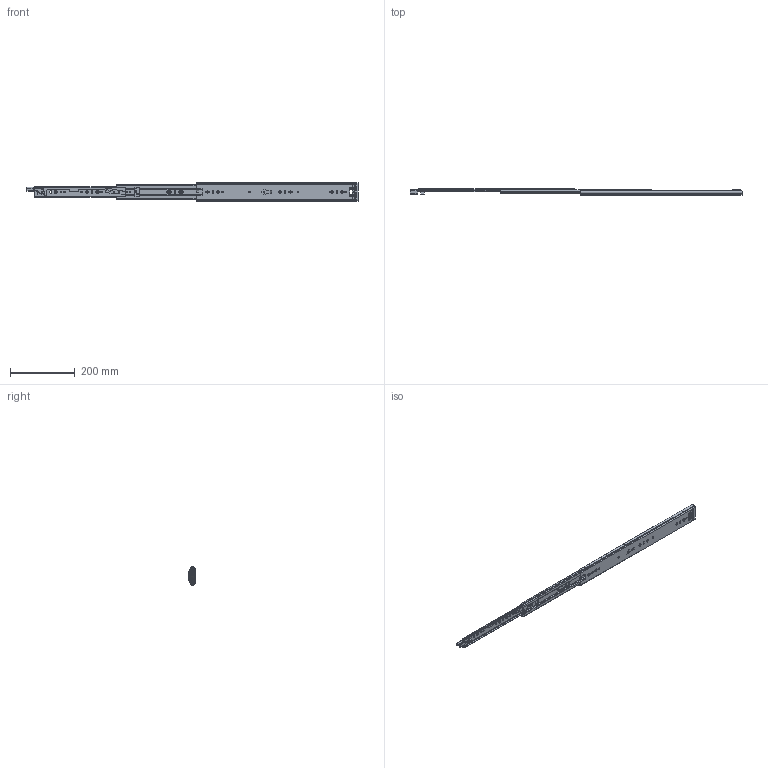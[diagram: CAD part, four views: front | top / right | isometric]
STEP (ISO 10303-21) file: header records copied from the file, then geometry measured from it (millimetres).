
FILE_DESCRIPTION((''),'2;1');
FILE_NAME('KP-57-01ZUZHUANGTU-20YOU_ASM','2023-04-03T',('jishu015'),(''),'PRO/ENGINEER BY PARAMETRIC TECHNOLOGY CORPORATION, 2010280','PRO/ENGINEER BY PARAMETRIC TECHNOLOGY CORPORATION, 2010280','');
FILE_SCHEMA(('CONFIG_CONTROL_DESIGN'));
Length unit declared in the file: millimetre
Products named in the file (21): KP-57-01WEIKE-20_; 1057WEIJIAO_________________; WAIKE________________ASM; KP-57-01ZHONGGUI-26____; ZHONGGUIPEIJIAN-20_; ZHONGGUISUOKOU-122; KP-57-01ZHONGGUI-26_____ASM; 1057XIAOZHUJIA_________________; 1057-5-6GANZHU_________________; 1057XIAOZHUJIA-14GE26_____ASM; KP-57-01NEIGUI-22__; PJ-57-08_______________; DIAOPIAN-11_______________; 50XINSUOKOU-1_______________; 1053-3SBANJI122_____________; JIAO11_____________; KP-57-01NEIGUI-22___ASM; 1053ZHUTIAO-275____; 53-5-6GANZHU1_; 1053ZHUTIAO-175MM11_ASM; KP-57-01ZUZHUANGTU-20YOU_ASM
Assembly tree (59 placements, depth 3):
  KP-57-01ZUZHUANGTU-20YOU_ASM
    WAIKE________________ASM
      KP-57-01WEIKE-20_
      1057WEIJIAO_________________
    KP-57-01ZHONGGUI-26_____ASM
      KP-57-01ZHONGGUI-26____
      ZHONGGUIPEIJIAN-20_
      ZHONGGUISUOKOU-122
    1057XIAOZHUJIA-14GE26_____ASM
      1057XIAOZHUJIA_________________
      1057-5-6GANZHU_________________  x32
    KP-57-01NEIGUI-22___ASM
      KP-57-01NEIGUI-22__
      PJ-57-08_______________
      DIAOPIAN-11_______________
      50XINSUOKOU-1_______________
      1053-3SBANJI122_____________
      JIAO11_____________
    1053ZHUTIAO-175MM11_ASM  x2
      1053ZHUTIAO-275____
      53-5-6GANZHU1_
Bounding box: 1026.92 x 19 x 57.67 mm (x, y, z)
Volume: 218090.7 mm3; surface area: 236459.1 mm2
Topology: 63 solids, 63 shells, 1874 faces, 5378 edges, 3383 vertices
Faces by surface type: plane 800, cylinder 778, sphere 107, bspline 87, cone 60, extrusion 23, torus 19
Entity records: 62041 total; most frequent: CARTESIAN_POINT 15630, ORIENTED_EDGE 9836, DIRECTION 9510, EDGE_CURVE 4918, AXIS2_PLACEMENT_3D 3267, VERTEX_POINT 3179, VECTOR 2976, LINE 2953
